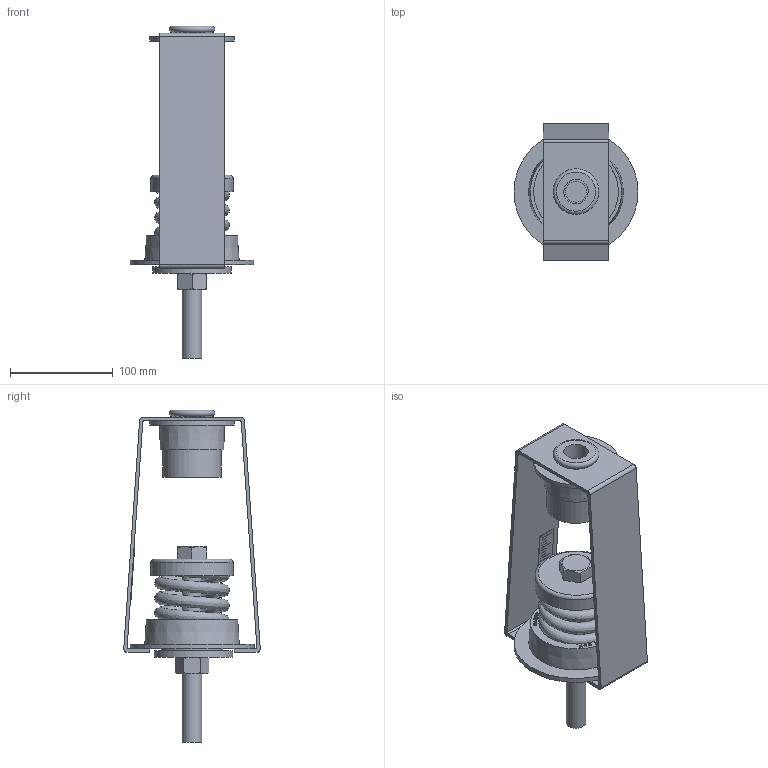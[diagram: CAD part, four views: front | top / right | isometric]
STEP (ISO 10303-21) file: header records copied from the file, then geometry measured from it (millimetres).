
FILE_DESCRIPTION((''),'2;1');
FILE_NAME('C:\2012_Work\Designs\HANGER BOXES\30N\PC30N-C-1265.stp','2013-10-16T11:30:32',('KShiels'),(''),'Autodesk Inventor 2012','Autodesk Inventor 2012','');
FILE_SCHEMA(('AUTOMOTIVE_DESIGN { 1 0 10303 214 1 1 1 1 }'));
Length unit declared in the file: inch
Products named in the file (19): PC30N-C-1265; 30N-C-1265 pc; A-22578-7; A-22578-4A; A-22578-4B; A-22578-4C; SPRING 30-1265 pc (RED); A-28441-3R; A-28441-3A; A-28441-3B; A-28441-3C; A-8589-3R HANGER CUP; A-8589-3R HANGER CUP C; A-8589-3R WASHER C; STEEL CUP 30N-C A-3269-2 (25(_FS)32); WASHER HANGER 3od 0.78125id A-31779; BOLT 0.75-10x7in.-UNC BOLT; Hex Nut - Inch 3/4 - 10; PC SCALE
Assembly tree (18 placements, depth 4):
  PC30N-C-1265
    30N-C-1265 pc
      A-22578-7
        A-22578-4A
        A-22578-4B
        A-22578-4C
      SPRING 30-1265 pc (RED)
      A-28441-3R
        A-28441-3A
        A-28441-3B
        A-28441-3C
      A-8589-3R HANGER CUP
        A-8589-3R HANGER CUP C
        A-8589-3R WASHER C
      STEEL CUP 30N-C A-3269-2 (25(_FS)32)
    WASHER HANGER 3od 0.78125id A-31779
    BOLT 0.75-10x7in.-UNC BOLT
    Hex Nut - Inch 3/4 - 10
    PC SCALE
Bounding box: 120.65 x 132.88 x 323.1 mm (x, y, z)
Volume: 594809.8 mm3; surface area: 260852.7 mm2
Topology: 14 solids, 14 shells, 1134 faces, 2889 edges, 1921 vertices
Faces by surface type: plane 743, bspline 315, cylinder 56, cone 17, torus 3
Full cylindrical faces by diameter (mm): 16.307 x1, 19.05 x1, 19.844 x2, 20.638 x1, 23.812 x1, 23.813 x1, 31.75 x2, 38.1 x2, 39.688 x1, 50.8 x3, 53.181 x1, 57.15 x3, 60.325 x4, 72.231 x1, 73.819 x1, 76.2 x1, 80.082 x1, 82.55 x3, 120.65 x1
Entity records: 39122 total; most frequent: CARTESIAN_POINT 13298, ORIENTED_EDGE 5692, DIRECTION 4032, EDGE_CURVE 2846, VECTOR 2048, LINE 2048, VERTEX_POINT 1917, EDGE_LOOP 1333
